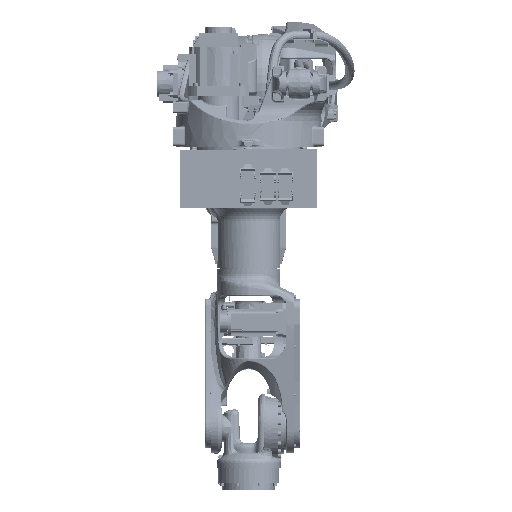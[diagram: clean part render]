
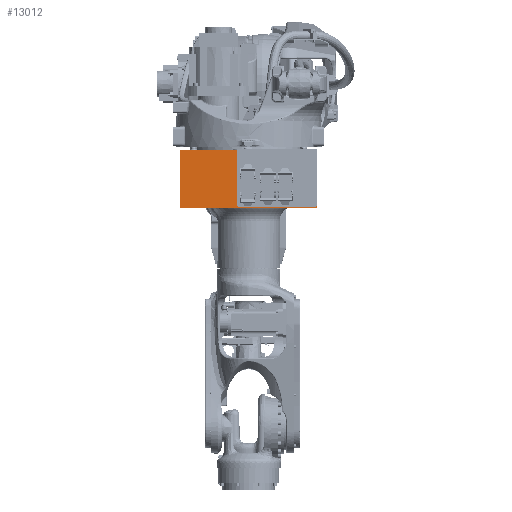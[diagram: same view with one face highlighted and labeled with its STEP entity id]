
A CAD part, front view. The second image highlights one B-rep face of the part: STEP entity #13012.
In plain terms, the highlighted planar face has unit normal (0, -1, 0).
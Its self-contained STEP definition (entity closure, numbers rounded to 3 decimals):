
#8554=CARTESIAN_POINT('Vertex',(250.,-390.,0.)) ;
#8557=CARTESIAN_POINT('Line Origine',(0.,-390.,0.)) ;
#8561=CARTESIAN_POINT('Vertex',(-250.,-390.,0.)) ;
#10886=CARTESIAN_POINT('Vertex',(-245.,-390.,210.)) ;
#10889=CARTESIAN_POINT('Line Origine',(2.5,-390.,210.)) ;
#10893=CARTESIAN_POINT('Vertex',(250.,-390.,210.)) ;
#12341=CARTESIAN_POINT('Line Origine',(250.,-390.,105.)) ;
#12889=CARTESIAN_POINT('Line Origine',(-250.,-390.,102.5)) ;
#12893=CARTESIAN_POINT('Vertex',(-250.,-390.,205.)) ;
#12986=CARTESIAN_POINT('Axis2P3D Location',(-250.,-390.,0.)) ;
#12992=CARTESIAN_POINT('Control Point',(-245.,-390.,210.)) ;
#12993=CARTESIAN_POINT('Control Point',(-245.548,-390.,210.)) ;
#12994=CARTESIAN_POINT('Control Point',(-246.095,-390.,209.925)) ;
#12995=CARTESIAN_POINT('Control Point',(-246.629,-390.,209.775)) ;
#12996=CARTESIAN_POINT('Control Point',(-247.643,-390.,209.333)) ;
#12997=CARTESIAN_POINT('Control Point',(-248.5,-390.,208.634)) ;
#12998=CARTESIAN_POINT('Control Point',(-248.878,-390.,208.228)) ;
#12999=CARTESIAN_POINT('Control Point',(-249.47,-390.,207.382)) ;
#13000=CARTESIAN_POINT('Control Point',(-249.83,-390.,206.417)) ;
#13001=CARTESIAN_POINT('Control Point',(-249.944,-390.,205.951)) ;
#13002=CARTESIAN_POINT('Control Point',(-250.,-390.,205.475)) ;
#13003=CARTESIAN_POINT('Control Point',(-250.,-390.,205.)) ;
#8558=DIRECTION('Vector Direction',(1.,0.,0.)) ;
#10890=DIRECTION('Vector Direction',(-1.,0.,0.)) ;
#12342=DIRECTION('Vector Direction',(0.,0.,-1.)) ;
#12890=DIRECTION('Vector Direction',(0.,0.,1.)) ;
#12987=DIRECTION('Axis2P3D Direction',(0.,-1.,0.)) ;
#12988=DIRECTION('Axis2P3D XDirection',(1.,0.,0.)) ;
#12989=AXIS2_PLACEMENT_3D('Plane Axis2P3D',#12986,#12987,#12988) ;
#13006=ORIENTED_EDGE('',*,*,#10895,.T.) ;
#13007=ORIENTED_EDGE('',*,*,#13004,.F.) ;
#13008=ORIENTED_EDGE('',*,*,#12895,.F.) ;
#13009=ORIENTED_EDGE('',*,*,#8563,.T.) ;
#13010=ORIENTED_EDGE('',*,*,#12345,.F.) ;
#8559=VECTOR('Line Direction',#8558,1.) ;
#10891=VECTOR('Line Direction',#10890,1.) ;
#12343=VECTOR('Line Direction',#12342,1.) ;
#12891=VECTOR('Line Direction',#12890,1.) ;
#13012=ADVANCED_FACE('Base',(#13011),#12990,.T.) ;
#12991=B_SPLINE_CURVE_WITH_KNOTS('',5,(#12992,#12993,#12994,#12995,#12996,#12997,#12998,#12999,#13000,#13001,#13002,#13003),.UNSPECIFIED.,.F.,.U.,(6,3,3,6),(0.,3.898,7.796,11.179),.UNSPECIFIED.) ;
#8563=EDGE_CURVE('',#8562,#8555,#8560,.T.) ;
#10895=EDGE_CURVE('',#10894,#10887,#10892,.T.) ;
#12345=EDGE_CURVE('',#10894,#8555,#12344,.T.) ;
#12895=EDGE_CURVE('',#8562,#12894,#12892,.T.) ;
#13004=EDGE_CURVE('',#12894,#10887,#12991,.F.) ;
#13005=EDGE_LOOP('',(#13006,#13007,#13008,#13009,#13010)) ;
#13011=FACE_OUTER_BOUND('',#13005,.T.) ;
#8560=LINE('Line',#8557,#8559) ;
#10892=LINE('Line',#10889,#10891) ;
#12344=LINE('Line',#12341,#12343) ;
#12892=LINE('Line',#12889,#12891) ;
#12990=PLANE('',#12989) ;
#8555=VERTEX_POINT('',#8554) ;
#8562=VERTEX_POINT('',#8561) ;
#10887=VERTEX_POINT('',#10886) ;
#10894=VERTEX_POINT('',#10893) ;
#12894=VERTEX_POINT('',#12893) ;
